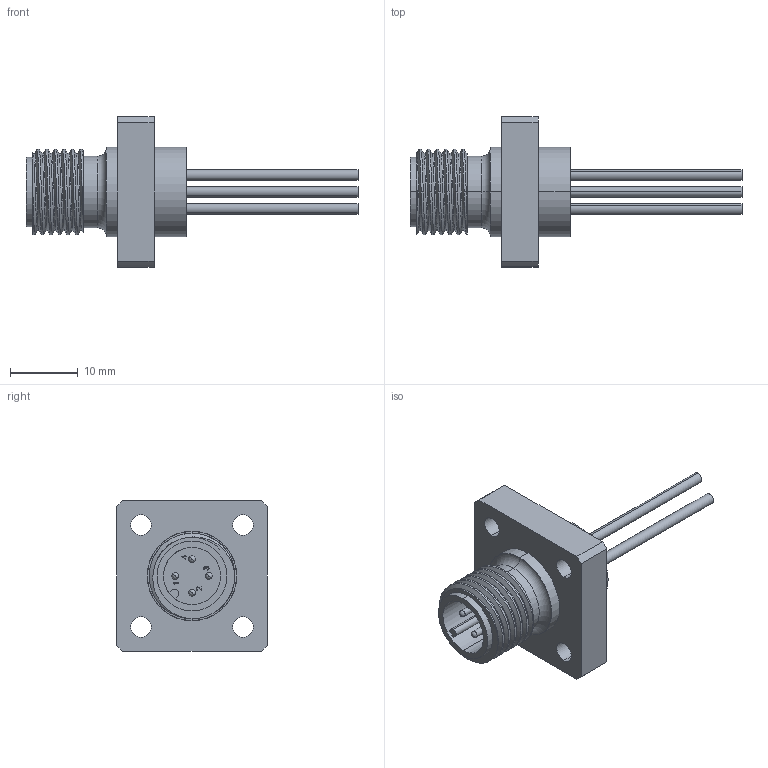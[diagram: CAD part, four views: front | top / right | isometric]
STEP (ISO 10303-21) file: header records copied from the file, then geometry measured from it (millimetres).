
FILE_DESCRIPTION (( 'STEP AP214' ), '1' );
FILE_NAME ('MDC-4MR-PM-ZZ.STEP', '2011-05-19T02:17:17', ( 'Bruce' ), ( 'HP' ), 'SwSTEP 2.0', 'SolidWorks 2011', '' );
FILE_SCHEMA (( 'AUTOMOTIVE_DESIGN' ));
Length unit declared in the file: millimetre
Products named in the file (1): MDC-4MR-PM-ZZ
Bounding box: 49.12 x 22.23 x 22.23 mm (x, y, z)
Volume: 4344.8 mm3; surface area: 3462.8 mm2
Topology: 1 solids, 1 shells, 157 faces, 382 edges, 251 vertices
Faces by surface type: cylinder 63, plane 61, bspline 23, torus 10
Entity records: 8293 total; most frequent: CARTESIAN_POINT 2984, ORIENTED_EDGE 764, DIRECTION 703, EDGE_CURVE 382, AXIS2_PLACEMENT_3D 259, VERTEX_POINT 251, EDGE_LOOP 189, LINE 185
